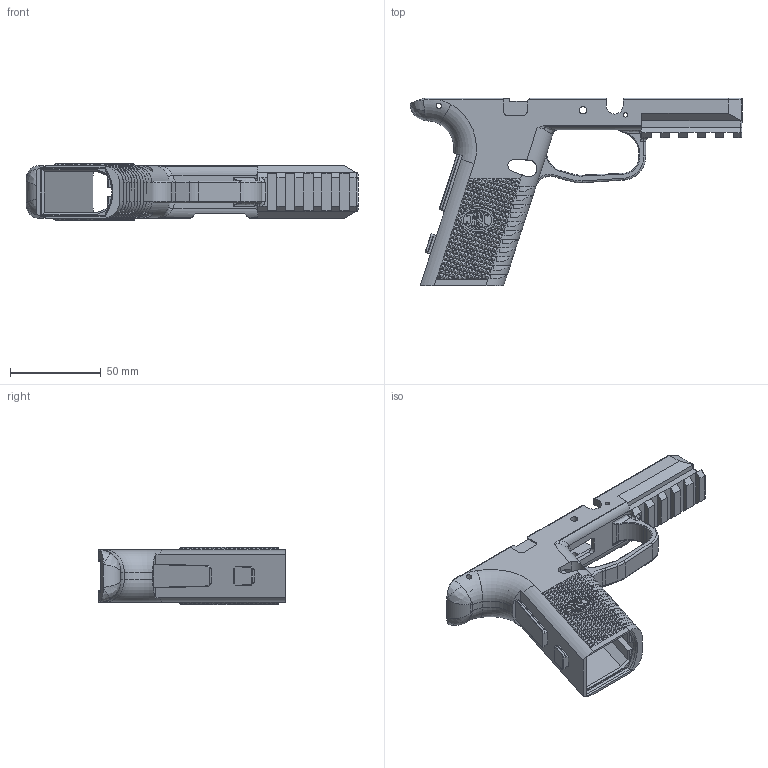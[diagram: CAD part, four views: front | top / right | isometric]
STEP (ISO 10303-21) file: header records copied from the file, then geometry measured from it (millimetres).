
FILE_DESCRIPTION(/* description */ (''),/* implementation_level */ '2;1');
FILE_NAME(/* name */ 'C:/Users/Bob/Desktop/FNS-940_Texture_5 v1.step',/* time_stamp */ '2021-06-04T20:23:13-07:00',/* author */ (''),/* organization */ (''),/* preprocessor_version */ 'ST-DEVELOPER v18.1',/* originating_system */ 'Autodesk Translation Framework v10.9.0.1377',/* authorisation */ '');
FILE_SCHEMA (('AUTOMOTIVE_DESIGN { 1 0 10303 214 3 1 1 }'));
Products named in the file (5): FNS-940_Texture_5; Main Frame; Compact Size Grip; Standard Size Grip; Standard Size Grip (Stopgap)
Assembly tree (4 placements, depth 2):
  FNS-940_Texture_5
    Main Frame
    Compact Size Grip
    Standard Size Grip
    Standard Size Grip (Stopgap)
Bounding box: 183.1 x 103.6 x 31.54 mm (x, y, z)
Volume: 81440.6 mm3; surface area: 48078.9 mm2
Topology: 1 solids, 1 shells, 2981 faces, 6425 edges, 3455 vertices
Faces by surface type: plane 2672, cylinder 141, bspline 135, torus 27, cone 6
Full cylindrical faces by diameter (mm): 0.612 x2, 2.5 x2, 3 x2, 4.1 x2
Entity records: 92084 total; most frequent: CARTESIAN_POINT 29884, ORIENTED_EDGE 12846, DIRECTION 12131, EDGE_CURVE 6423, LINE 5539, VECTOR 5539, VERTEX_POINT 3455, AXIS2_PLACEMENT_3D 3296
